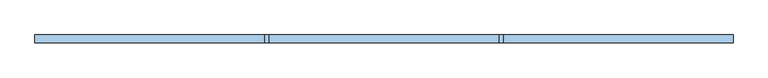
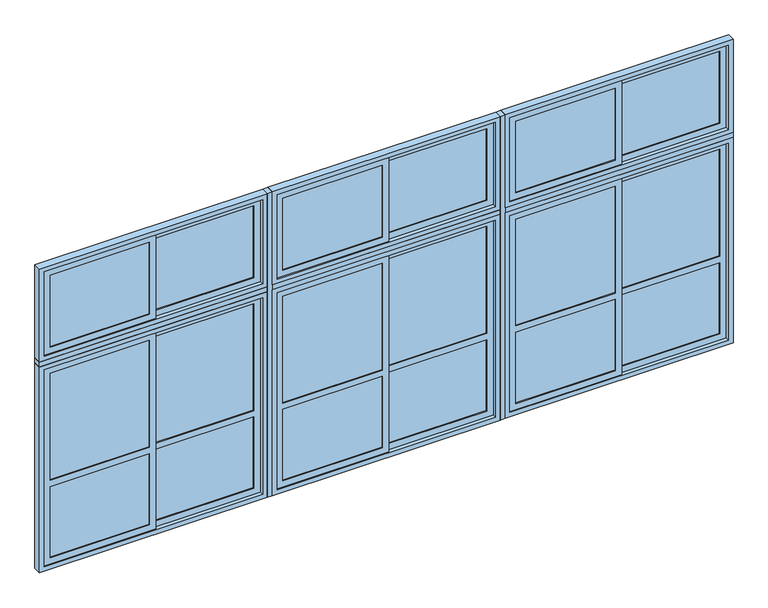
"""IFC4 building model written with IfcOpenShell, lengths in millimetres: window geometry, A14 Ventana_Corrediza_PC_6 hojas : A14 Ventana_Corrediza_PC_6 hojas 670x310."""

from ifc_helpers import new_model, si_unit, frame, origin, origin_with_axes, place, context, project, spatial, polyline, outline, extrude, source, transform, mapped, element, save


def window_09f8351e(model_context):
    return source(origin(), model_context, "Body", "SweptSolid", [
        extrude(outline(polyline([(-2281.5, 31.5769719), (-3242.0, 31.5769719), (-3242.0, 40.4230281), (-2281.5, 40.4230281), (-2281.5, 31.5769719)])), frame((0.0, 0.0, 108.0), z_axis=(0.0, 0.0, 1.0), x_axis=(1.0, 0.0, 0.0)), (0.0, 0.0, 1.0), 728.0),
        extrude(outline(polyline([(-1258.0, 59.5769719), (-2218.5, 59.5769719), (-2218.5, 68.4230281), (-1258.0, 68.4230281), (-1258.0, 59.5769719)])), frame((0.0, 0.0, 108.0), z_axis=(0.0, 0.0, 1.0), x_axis=(1.0, 0.0, 0.0)), (0.0, 0.0, 1.0), 728.0),
        extrude(outline(polyline([(-31.5, 31.5769719), (-992.0, 31.5769719), (-992.0, 40.4230281), (-31.5, 40.4230281), (-31.5, 31.5769719)])), frame((0.0, 0.0, 108.0), z_axis=(0.0, 0.0, 1.0), x_axis=(1.0, 0.0, 0.0)), (0.0, 0.0, 1.0), 728.0),
        extrude(outline(polyline([(992.0, 59.5769719), (31.5, 59.5769719), (31.5, 68.4230281), (992.0, 68.4230281), (992.0, 59.5769719)])), frame((0.0, 0.0, 108.0), z_axis=(0.0, 0.0, 1.0), x_axis=(1.0, 0.0, 0.0)), (0.0, 0.0, 1.0), 728.0),
        extrude(outline(polyline([(2218.5, 31.5769719), (1258.0, 31.5769719), (1258.0, 40.4230281), (2218.5, 40.4230281), (2218.5, 31.5769719)])), frame((0.0, 0.0, 108.0), z_axis=(0.0, 0.0, 1.0), x_axis=(1.0, 0.0, 0.0)), (0.0, 0.0, 1.0), 728.0),
        extrude(outline(polyline([(3242.0, 59.5769719), (2281.5, 59.5769719), (2281.5, 68.4230281), (3242.0, 68.4230281), (3242.0, 59.5769719)])), frame((0.0, 0.0, 108.0), z_axis=(0.0, 0.0, 1.0), x_axis=(1.0, 0.0, 0.0)), (0.0, 0.0, 1.0), 728.0),
        extrude(outline(polyline([(2218.5, 31.5769719), (1258.0, 31.5769719), (1258.0, 40.4230281), (2218.5, 40.4230281), (2218.5, 31.5769719)])), frame((0.0, 0.0, 2258.0), z_axis=(0.0, 0.0, 1.0), x_axis=(1.0, 0.0, 0.0)), (0.0, 0.0, 1.0), 734.0),
        extrude(outline(polyline([(2218.5, 31.5769719), (1258.0, 31.5769719), (1258.0, 40.4230281), (2218.5, 40.4230281), (2218.5, 31.5769719)])), frame((0.0, 0.0, 900.0), z_axis=(0.0, 0.0, 1.0), x_axis=(1.0, 0.0, 0.0)), (0.0, 0.0, 1.0), 1092.0),
        extrude(outline(polyline([(-31.5, 31.5769719), (-992.0, 31.5769719), (-992.0, 40.4230281), (-31.5, 40.4230281), (-31.5, 31.5769719)])), frame((0.0, 0.0, 2258.0), z_axis=(0.0, 0.0, 1.0), x_axis=(1.0, 0.0, 0.0)), (0.0, 0.0, 1.0), 734.0),
        extrude(outline(polyline([(-31.5, 31.5769719), (-992.0, 31.5769719), (-992.0, 40.4230281), (-31.5, 40.4230281), (-31.5, 31.5769719)])), frame((0.0, 0.0, 900.0), z_axis=(0.0, 0.0, 1.0), x_axis=(1.0, 0.0, 0.0)), (0.0, 0.0, 1.0), 1092.0),
        extrude(outline(polyline([(-2281.5, 31.5769719), (-3242.0, 31.5769719), (-3242.0, 40.4230281), (-2281.5, 40.4230281), (-2281.5, 31.5769719)])), frame((0.0, 0.0, 2258.0), z_axis=(0.0, 0.0, 1.0), x_axis=(1.0, 0.0, 0.0)), (0.0, 0.0, 1.0), 734.0),
        extrude(outline(polyline([(-2281.5, 31.5769719), (-3242.0, 31.5769719), (-3242.0, 40.4230281), (-2281.5, 40.4230281), (-2281.5, 31.5769719)])), frame((0.0, 0.0, 900.0), z_axis=(0.0, 0.0, 1.0), x_axis=(1.0, 0.0, 0.0)), (0.0, 0.0, 1.0), 1092.0),
        extrude(outline(polyline([(3242.0, 59.5769719), (2281.5, 59.5769719), (2281.5, 68.4230281), (3242.0, 68.4230281), (3242.0, 59.5769719)])), frame((0.0, 0.0, 2258.0), z_axis=(0.0, 0.0, 1.0), x_axis=(1.0, 0.0, 0.0)), (0.0, 0.0, 1.0), 734.0),
        extrude(outline(polyline([(3242.0, 59.5769719), (2281.5, 59.5769719), (2281.5, 68.4230281), (3242.0, 68.4230281), (3242.0, 59.5769719)])), frame((0.0, 0.0, 900.0), z_axis=(0.0, 0.0, 1.0), x_axis=(1.0, 0.0, 0.0)), (0.0, 0.0, 1.0), 1092.0),
        extrude(outline(polyline([(992.0, 59.5769719), (31.5, 59.5769719), (31.5, 68.4230281), (992.0, 68.4230281), (992.0, 59.5769719)])), frame((0.0, 0.0, 2258.0), z_axis=(0.0, 0.0, 1.0), x_axis=(1.0, 0.0, 0.0)), (0.0, 0.0, 1.0), 734.0),
        extrude(outline(polyline([(992.0, 59.5769719), (31.5, 59.5769719), (31.5, 68.4230281), (992.0, 68.4230281), (992.0, 59.5769719)])), frame((0.0, 0.0, 900.0), z_axis=(0.0, 0.0, 1.0), x_axis=(1.0, 0.0, 0.0)), (0.0, 0.0, 1.0), 1092.0),
        extrude(outline(polyline([(-1258.0, 59.5769719), (-2218.5, 59.5769719), (-2218.5, 68.4230281), (-1258.0, 68.4230281), (-1258.0, 59.5769719)])), frame((0.0, 0.0, 2258.0), z_axis=(0.0, 0.0, 1.0), x_axis=(1.0, 0.0, 0.0)), (0.0, 0.0, 1.0), 734.0),
        extrude(outline(polyline([(-1258.0, 59.5769719), (-2218.5, 59.5769719), (-2218.5, 68.4230281), (-1258.0, 68.4230281), (-1258.0, 59.5769719)])), frame((0.0, 0.0, 900.0), z_axis=(0.0, 0.0, 1.0), x_axis=(1.0, 0.0, 0.0)), (0.0, 0.0, 1.0), 1092.0),
        extrude(outline(polyline([(2055.0, 2281.5), (2055.0, 1195.0), (45.0, 1195.0), (45.0, 2281.5), (2055.0, 2281.5)]), holes=[polyline([(1992.0, 1258.0), (1992.0, 2218.5), (900.0, 2218.5), (900.0, 1258.0), (1992.0, 1258.0)]), polyline([(836.0, 1258.0), (836.0, 2218.5), (108.0, 2218.5), (108.0, 1258.0), (836.0, 1258.0)])]), frame((0.0, 22.0, 0.0), z_axis=(0.0, 1.0, 0.0), x_axis=(0.0, 0.0, 1.0)), (0.0, 0.0, 1.0), 28.0),
        extrude(outline(polyline([(2195.0, 1195.0), (2195.0, 2281.5), (3055.0, 2281.5), (3055.0, 1195.0), (2195.0, 1195.0)]), holes=[polyline([(2992.0, 1258.0), (2992.0, 2218.5), (2258.0, 2218.5), (2258.0, 1258.0), (2992.0, 1258.0)])]), frame((0.0, 22.0, 0.0), z_axis=(0.0, 1.0, 0.0), x_axis=(0.0, 0.0, 1.0)), (0.0, 0.0, 1.0), 28.0),
        extrude(outline(polyline([(2055.0, 31.5), (2055.0, -1055.0), (45.0, -1055.0), (45.0, 31.5), (2055.0, 31.5)]), holes=[polyline([(1992.0, -992.0), (1992.0, -31.5), (900.0, -31.5), (900.0, -992.0), (1992.0, -992.0)]), polyline([(836.0, -992.0), (836.0, -31.5), (108.0, -31.5), (108.0, -992.0), (836.0, -992.0)])]), frame((0.0, 22.0, 0.0), z_axis=(0.0, 1.0, 0.0), x_axis=(0.0, 0.0, 1.0)), (0.0, 0.0, 1.0), 28.0),
        extrude(outline(polyline([(2195.0, -1055.0), (2195.0, 31.5), (3055.0, 31.5), (3055.0, -1055.0), (2195.0, -1055.0)]), holes=[polyline([(2992.0, -992.0), (2992.0, -31.5), (2258.0, -31.5), (2258.0, -992.0), (2992.0, -992.0)])]), frame((0.0, 22.0, 0.0), z_axis=(0.0, 1.0, 0.0), x_axis=(0.0, 0.0, 1.0)), (0.0, 0.0, 1.0), 28.0),
        extrude(outline(polyline([(2055.0, -2218.5), (2055.0, -3305.0), (45.0, -3305.0), (45.0, -2218.5), (2055.0, -2218.5)]), holes=[polyline([(1992.0, -3242.0), (1992.0, -2281.5), (900.0, -2281.5), (900.0, -3242.0), (1992.0, -3242.0)]), polyline([(836.0, -3242.0), (836.0, -2281.5), (108.0, -2281.5), (108.0, -3242.0), (836.0, -3242.0)])]), frame((0.0, 22.0, 0.0), z_axis=(0.0, 1.0, 0.0), x_axis=(0.0, 0.0, 1.0)), (0.0, 0.0, 1.0), 28.0),
        extrude(outline(polyline([(2195.0, -3305.0), (2195.0, -2218.5), (3055.0, -2218.5), (3055.0, -3305.0), (2195.0, -3305.0)]), holes=[polyline([(2992.0, -3242.0), (2992.0, -2281.5), (2258.0, -2281.5), (2258.0, -3242.0), (2992.0, -3242.0)])]), frame((0.0, 22.0, 0.0), z_axis=(0.0, 1.0, 0.0), x_axis=(0.0, 0.0, 1.0)), (0.0, 0.0, 1.0), 28.0),
        extrude(outline(polyline([(2055.0, 3305.0), (2055.0, 2218.5), (45.0, 2218.5), (45.0, 3305.0), (2055.0, 3305.0)]), holes=[polyline([(1992.0, 2281.5), (1992.0, 3242.0), (900.0, 3242.0), (900.0, 2281.5), (1992.0, 2281.5)]), polyline([(836.0, 2281.5), (836.0, 3242.0), (108.0, 3242.0), (108.0, 2281.5), (836.0, 2281.5)])]), frame((0.0, 50.0, 0.0), z_axis=(0.0, 1.0, 0.0), x_axis=(0.0, 0.0, 1.0)), (0.0, 0.0, 1.0), 28.0),
        extrude(outline(polyline([(2195.0, 2218.5), (2195.0, 3305.0), (3055.0, 3305.0), (3055.0, 2218.5), (2195.0, 2218.5)]), holes=[polyline([(2992.0, 2281.5), (2992.0, 3242.0), (2258.0, 3242.0), (2258.0, 2281.5), (2992.0, 2281.5)])]), frame((0.0, 50.0, 0.0), z_axis=(0.0, 1.0, 0.0), x_axis=(0.0, 0.0, 1.0)), (0.0, 0.0, 1.0), 28.0),
        extrude(outline(polyline([(2055.0, 1055.0), (2055.0, -31.5), (45.0, -31.5), (45.0, 1055.0), (2055.0, 1055.0)]), holes=[polyline([(1992.0, 31.5), (1992.0, 992.0), (900.0, 992.0), (900.0, 31.5), (1992.0, 31.5)]), polyline([(836.0, 31.5), (836.0, 992.0), (108.0, 992.0), (108.0, 31.5), (836.0, 31.5)])]), frame((0.0, 50.0, 0.0), z_axis=(0.0, 1.0, 0.0), x_axis=(0.0, 0.0, 1.0)), (0.0, 0.0, 1.0), 28.0),
        extrude(outline(polyline([(2195.0, -31.5), (2195.0, 1055.0), (3055.0, 1055.0), (3055.0, -31.5), (2195.0, -31.5)]), holes=[polyline([(2992.0, 31.5), (2992.0, 992.0), (2258.0, 992.0), (2258.0, 31.5), (2992.0, 31.5)])]), frame((0.0, 50.0, 0.0), z_axis=(0.0, 1.0, 0.0), x_axis=(0.0, 0.0, 1.0)), (0.0, 0.0, 1.0), 28.0),
        extrude(outline(polyline([(2055.0, -1195.0), (2055.0, -2281.5), (45.0, -2281.5), (45.0, -1195.0), (2055.0, -1195.0)]), holes=[polyline([(1992.0, -2218.5), (1992.0, -1258.0), (900.0, -1258.0), (900.0, -2218.5), (1992.0, -2218.5)]), polyline([(836.0, -2218.5), (836.0, -1258.0), (108.0, -1258.0), (108.0, -2218.5), (836.0, -2218.5)])]), frame((0.0, 50.0, 0.0), z_axis=(0.0, 1.0, 0.0), x_axis=(0.0, 0.0, 1.0)), (0.0, 0.0, 1.0), 28.0),
        extrude(outline(polyline([(2195.0, -2281.5), (2195.0, -1195.0), (3055.0, -1195.0), (3055.0, -2281.5), (2195.0, -2281.5)]), holes=[polyline([(2992.0, -2218.5), (2992.0, -1258.0), (2258.0, -1258.0), (2258.0, -2218.5), (2992.0, -2218.5)])]), frame((0.0, 50.0, 0.0), z_axis=(0.0, 1.0, 0.0), x_axis=(0.0, 0.0, 1.0)), (0.0, 0.0, 1.0), 28.0),
        extrude(outline(polyline([(2100.0, -1100.0), (0.0, -1100.0), (0.0, 1100.0), (2100.0, 1100.0), (2100.0, -1100.0)]), holes=[polyline([(2055.0, -1055.0), (2055.0, 1055.0), (45.0, 1055.0), (45.0, -1055.0), (2055.0, -1055.0)])]), frame((0.0, 12.5, 0.0), z_axis=(0.0, 1.0, 0.0), x_axis=(0.0, 0.0, 1.0)), (0.0, 0.0, 1.0), 75.0),
        extrude(outline(polyline([(2100.0, -3350.0), (0.0, -3350.0), (0.0, -1150.0), (2100.0, -1150.0), (2100.0, -3350.0)]), holes=[polyline([(2055.0, -3305.0), (2055.0, -1195.0), (45.0, -1195.0), (45.0, -3305.0), (2055.0, -3305.0)])]), frame((0.0, 12.5, 0.0), z_axis=(0.0, 1.0, 0.0), x_axis=(0.0, 0.0, 1.0)), (0.0, 0.0, 1.0), 75.0),
        extrude(outline(polyline([(3100.0, -1100.0), (2150.0, -1100.0), (2150.0, 1100.0), (3100.0, 1100.0), (3100.0, -1100.0)]), holes=[polyline([(3055.0, -1055.0), (3055.0, 1055.0), (2195.0, 1055.0), (2195.0, -1055.0), (3055.0, -1055.0)])]), frame((0.0, 12.5, 0.0), z_axis=(0.0, 1.0, 0.0), x_axis=(0.0, 0.0, 1.0)), (0.0, 0.0, 1.0), 75.0),
        extrude(outline(polyline([(2150.0, -3350.0), (2150.0, -1150.0), (3100.0, -1150.0), (3100.0, -3350.0), (2150.0, -3350.0)]), holes=[polyline([(3055.0, -3305.0), (3055.0, -1195.0), (2195.0, -1195.0), (2195.0, -3305.0), (3055.0, -3305.0)])]), frame((0.0, 12.5, 0.0), z_axis=(0.0, 1.0, 0.0), x_axis=(0.0, 0.0, 1.0)), (0.0, 0.0, 1.0), 75.0),
        extrude(outline(polyline([(2100.0, 1150.0), (0.0, 1150.0), (0.0, 3350.0), (2100.0, 3350.0), (2100.0, 1150.0)]), holes=[polyline([(2055.0, 1195.0), (2055.0, 3305.0), (45.0, 3305.0), (45.0, 1195.0), (2055.0, 1195.0)])]), frame((0.0, 12.5, 0.0), z_axis=(0.0, 1.0, 0.0), x_axis=(0.0, 0.0, 1.0)), (0.0, 0.0, 1.0), 75.0),
        extrude(outline(polyline([(3100.0, 1150.0), (2150.0, 1150.0), (2150.0, 3350.0), (3100.0, 3350.0), (3100.0, 1150.0)]), holes=[polyline([(3055.0, 1195.0), (3055.0, 3305.0), (2195.0, 3305.0), (2195.0, 1195.0), (3055.0, 1195.0)])]), frame((0.0, 12.5, 0.0), z_axis=(0.0, 1.0, 0.0), x_axis=(0.0, 0.0, 1.0)), (0.0, 0.0, 1.0), 75.0),
        extrude(outline(polyline([(1150.0, 12.5), (1100.0, 12.5), (1100.0, 87.5), (1150.0, 87.5), (1150.0, 12.5)])), origin_with_axes(), (0.0, 0.0, 1.0), 3100.0),
        extrude(outline(polyline([(-1100.0, 12.5), (-1150.0, 12.5), (-1150.0, 87.5), (-1100.0, 87.5), (-1100.0, 12.5)])), origin_with_axes(), (0.0, 0.0, 1.0), 3100.0),
        extrude(outline(polyline([(3350.0, 12.5), (1150.0, 12.5), (1150.0, 87.5), (3350.0, 87.5), (3350.0, 12.5)])), frame((0.0, 0.0, 2100.0), z_axis=(0.0, 0.0, 1.0), x_axis=(1.0, 0.0, 0.0)), (0.0, 0.0, 1.0), 50.0),
        extrude(outline(polyline([(1100.0, 12.5), (-1100.0, 12.5), (-1100.0, 87.5), (1100.0, 87.5), (1100.0, 12.5)])), frame((0.0, 0.0, 2100.0), z_axis=(0.0, 0.0, 1.0), x_axis=(1.0, 0.0, 0.0)), (0.0, 0.0, 1.0), 50.0),
        extrude(outline(polyline([(-1150.0, 12.5), (-3350.0, 12.5), (-3350.0, 87.5), (-1150.0, 87.5), (-1150.0, 12.5)])), frame((0.0, 0.0, 2100.0), z_axis=(0.0, 0.0, 1.0), x_axis=(1.0, 0.0, 0.0)), (0.0, 0.0, 1.0), 50.0),
    ])


if __name__ == "__main__":
    model = new_model("IFC4")
    model_context = context("Model", 3, world=origin())
    ifc_project = project(units=[si_unit("LENGTHUNIT", "METRE", prefix="MILLI")], contexts=[model_context])
    site = spatial("IfcSite", under=ifc_project)
    building = spatial("IfcBuilding", under=site)
    placement = place(None, origin())
    window_shape = window_09f8351e(model_context)
    element("IfcWindow", 1, ObjectType="A14 Ventana_Corrediza_PC_6 hojas : A14 Ventana_Corrediza_PC_6 hojas 670x310", at=placement, inside=building, context=model_context, shape_type="MappedRepresentation", body=[
        mapped(window_shape, transform((0.0, 0.0, 0.0), x_axis=(1.0, 0.0, 0.0), y_axis=(0.0, 1.0, 0.0), z_axis=(0.0, 0.0, 1.0))),
    ])
    save(model, "model.ifc")
